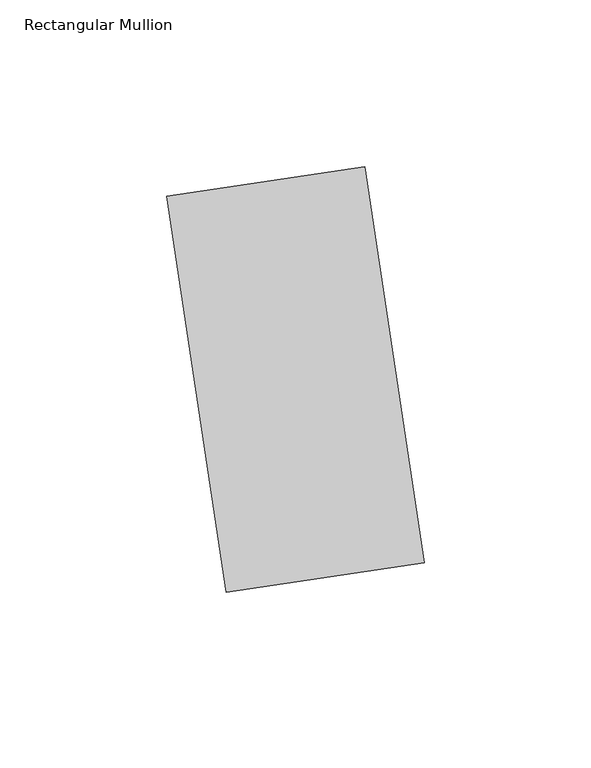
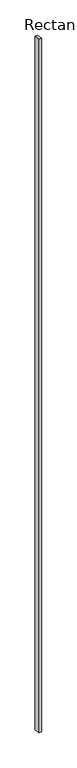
"""IFC4 building model written with IfcOpenShell, lengths in millimetres: member geometry, Rectangular Mullion : TERÇA 6x12 cm."""

from ifc_helpers import new_model, si_unit, frame, origin, place, context, project, spatial, polyline, outline, extrude, source, transform, mapped, element, save


def rectangular_mullion_7b304f96(model_context):
    return source(origin(), model_context, "Body", "SweptSolid", [
        extrude(outline(polyline([(29.6680906, 4.4502136), (-29.6680906, -4.4502136), (-47.4689449, 114.2221488), (11.8672362, 123.1225759), (29.6680906, 4.4502136)])), frame((0.0, 0.0, -15250.0), z_axis=(0.0, 0.0, 1.0), x_axis=(1.0, 0.0, 0.0)), (0.0, 0.0, 1.0), 15250.0),
    ])


if __name__ == "__main__":
    model = new_model("IFC4")
    model_context = context("Model", 3, world=origin())
    ifc_project = project(units=[si_unit("LENGTHUNIT", "METRE", prefix="MILLI")], contexts=[model_context])
    site = spatial("IfcSite", under=ifc_project)
    building = spatial("IfcBuilding", under=site)
    placement = place(None, origin())
    rectangular_mullion_shape = rectangular_mullion_7b304f96(model_context)
    element("IfcMember", 1, ObjectType="Rectangular Mullion : TERÇA 6x12 cm", at=placement, inside=building, context=model_context, shape_type="MappedRepresentation", body=[
        mapped(rectangular_mullion_shape, transform((0.0, 0.0, 0.0), x_axis=(1.0, 0.0, 0.0), y_axis=(0.0, 1.0, 0.0), z_axis=(0.0, 0.0, 1.0))),
    ])
    save(model, "model.ifc")
